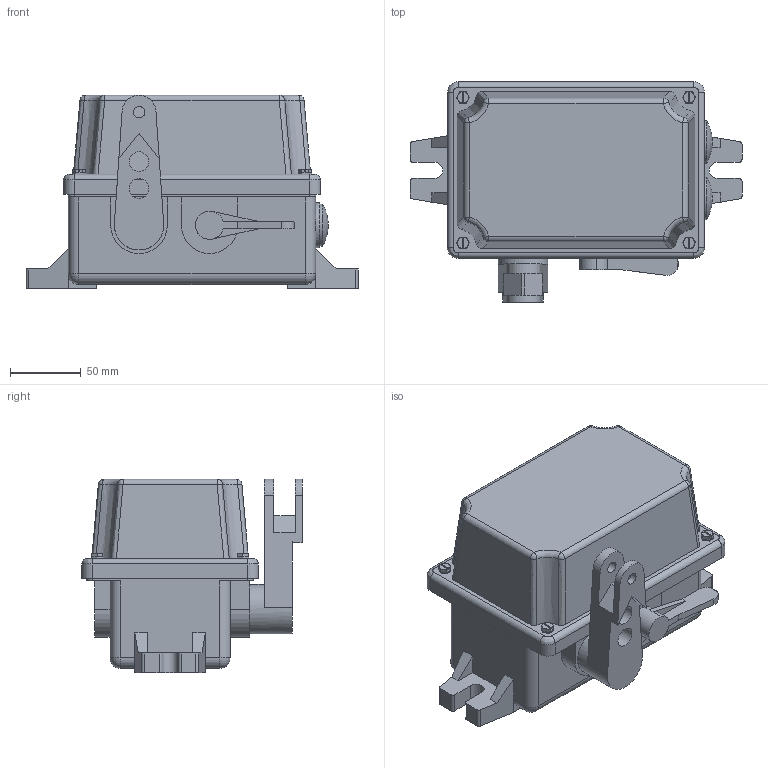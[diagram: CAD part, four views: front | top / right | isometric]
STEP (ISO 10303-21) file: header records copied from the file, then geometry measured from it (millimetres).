
FILE_DESCRIPTION( ( 'Unknown' ), '1' );
FILE_NAME( 'C:/Users/prusa/Desktop/Lankový spínač 3D/NS-3D.stp', 'Unknown', ( 'Unknown' ), ( 'Unknown' ), 'PSStep 14.0', 'Unknown', ' ' );
FILE_SCHEMA( ( 'AUTOMOTIVE_DESIGN { 1 0 10303 214 1 1 1 1 }' ) );
Length unit declared in the file: millimetre
Products named in the file (6): Assem1; Páčka; Ramínko; NS_3D; Sroub M5x15; Ucpávka M25x1,5
Assembly tree (9 placements, depth 2):
  Assem1
    Páčka
    Ramínko
    NS_3D
    Sroub M5x15  x4
    Ucpávka M25x1,5  x2
Bounding box: 235 x 156 x 137 mm (x, y, z)
Volume: 2390586.6 mm3; surface area: 148623.5 mm2
Topology: 9 solids, 9 shells, 357 faces, 883 edges, 550 vertices
Faces by surface type: plane 213, cylinder 76, cone 30, bspline 20, sphere 14, torus 4
Full cylindrical faces by diameter (mm): 4.134 x4, 4.998 x4, 5 x4, 8 x4, 8.2 x2, 14 x2, 20 x1, 23.376 x2, 25 x2, 30 x2, 35 x1
Entity records: 9398 total; most frequent: CARTESIAN_POINT 2327, DIRECTION 1116, ORIENTED_EDGE 1108, EDGE_CURVE 554, AXIS2_PLACEMENT_3D 395, VERTEX_POINT 362, LINE 326, VECTOR 326
